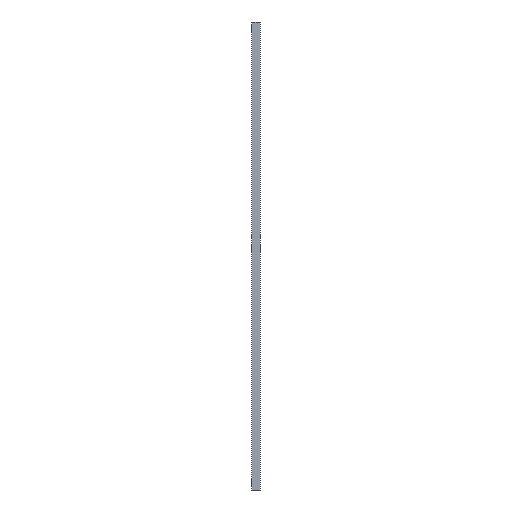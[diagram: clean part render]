
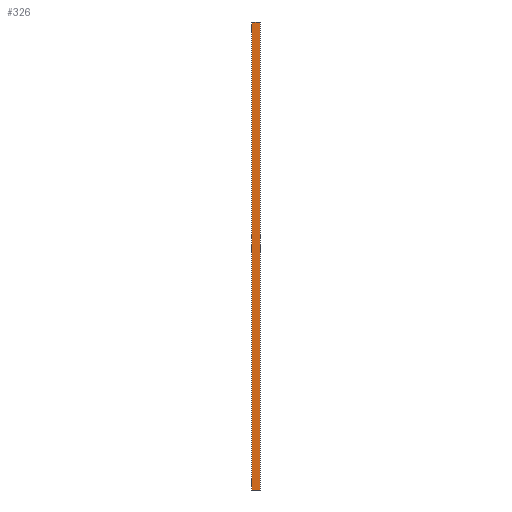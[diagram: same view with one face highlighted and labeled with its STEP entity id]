
A CAD part, left-side view. The second image highlights one B-rep face of the part: STEP entity #326.
In plain terms, the highlighted planar face has unit normal (-1, 0, 0).
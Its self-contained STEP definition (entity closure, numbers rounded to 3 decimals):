
#44 = DIRECTION ( 'NONE',  ( 0., 1., 0. ) ) ;
#45 = CARTESIAN_POINT ( 'NONE',  ( -8., 0., 679. ) ) ;
#100 = ORIENTED_EDGE ( 'NONE', *, *, #963, .F. ) ;
#114 = LINE ( 'NONE', #883, #366 ) ;
#116 = EDGE_CURVE ( 'NONE', #618, #989, #354, .T. ) ;
#128 = ORIENTED_EDGE ( 'NONE', *, *, #1035, .T. ) ;
#148 = ORIENTED_EDGE ( 'NONE', *, *, #116, .T. ) ;
#152 = CARTESIAN_POINT ( 'NONE',  ( -8., 12.5, 679. ) ) ;
#181 = DIRECTION ( 'NONE',  ( 0., 1., 0. ) ) ;
#186 = DIRECTION ( 'NONE',  ( 0., 1., 0. ) ) ;
#194 = CARTESIAN_POINT ( 'NONE',  ( -8., 0., 0. ) ) ;
#219 = LINE ( 'NONE', #194, #1168 ) ;
#232 = CARTESIAN_POINT ( 'NONE',  ( -8., 3.2, 0. ) ) ;
#242 = CARTESIAN_POINT ( 'NONE',  ( -8., 0., 0. ) ) ;
#282 = VECTOR ( 'NONE', #181, 1000. ) ;
#284 = CARTESIAN_POINT ( 'NONE',  ( -8., 0., 679. ) ) ;
#294 = VERTEX_POINT ( 'NONE', #564 ) ;
#296 = VECTOR ( 'NONE', #44, 1000. ) ;
#301 = LINE ( 'NONE', #397, #762 ) ;
#320 = AXIS2_PLACEMENT_3D ( 'NONE', #45, #390, #852 ) ;
#326 = ADVANCED_FACE ( 'NONE', ( #682 ), #1118, .T. ) ;
#350 = ORIENTED_EDGE ( 'NONE', *, *, #927, .F. ) ;
#354 = LINE ( 'NONE', #242, #622 ) ;
#364 = CARTESIAN_POINT ( 'NONE',  ( -8., 12.5, 679. ) ) ;
#366 = VECTOR ( 'NONE', #650, 1000. ) ;
#367 = DIRECTION ( 'NONE',  ( 0., -1., 0. ) ) ;
#388 = CARTESIAN_POINT ( 'NONE',  ( -8., 12.5, 0. ) ) ;
#390 = DIRECTION ( 'NONE',  ( -1., 0., 0. ) ) ;
#397 = CARTESIAN_POINT ( 'NONE',  ( -8., 0., 0. ) ) ;
#425 = ORIENTED_EDGE ( 'NONE', *, *, #1259, .F. ) ;
#448 = CARTESIAN_POINT ( 'NONE',  ( -8., 9.3, 679. ) ) ;
#455 = VECTOR ( 'NONE', #490, 1000. ) ;
#490 = DIRECTION ( 'NONE',  ( 0., -1., 0. ) ) ;
#495 = VECTOR ( 'NONE', #570, 1000. ) ;
#564 = CARTESIAN_POINT ( 'NONE',  ( -8., 0., 679. ) ) ;
#570 = DIRECTION ( 'NONE',  ( 0., 0., -1. ) ) ;
#583 = VERTEX_POINT ( 'NONE', #388 ) ;
#594 = CARTESIAN_POINT ( 'NONE',  ( -8., 0., 679. ) ) ;
#613 = EDGE_CURVE ( 'NONE', #712, #583, #805, .T. ) ;
#618 = VERTEX_POINT ( 'NONE', #232 ) ;
#622 = VECTOR ( 'NONE', #367, 1000. ) ;
#630 = EDGE_CURVE ( 'NONE', #1357, #294, #1049, .T. ) ;
#638 = ORIENTED_EDGE ( 'NONE', *, *, #1282, .T. ) ;
#650 = DIRECTION ( 'NONE',  ( 0., 0., -1. ) ) ;
#677 = CARTESIAN_POINT ( 'NONE',  ( -8., 3.2, 679. ) ) ;
#678 = ORIENTED_EDGE ( 'NONE', *, *, #630, .F. ) ;
#682 = FACE_OUTER_BOUND ( 'NONE', #1328, .T. ) ;
#712 = VERTEX_POINT ( 'NONE', #933 ) ;
#724 = LINE ( 'NONE', #594, #282 ) ;
#762 = VECTOR ( 'NONE', #1138, 1000. ) ;
#805 = LINE ( 'NONE', #364, #495 ) ;
#852 = DIRECTION ( 'NONE',  ( 0., 0., 1. ) ) ;
#883 = CARTESIAN_POINT ( 'NONE',  ( -8., 0., 679. ) ) ;
#901 = VERTEX_POINT ( 'NONE', #448 ) ;
#927 = EDGE_CURVE ( 'NONE', #1313, #583, #219, .T. ) ;
#933 = CARTESIAN_POINT ( 'NONE',  ( -8., 12.5, 679. ) ) ;
#963 = EDGE_CURVE ( 'NONE', #294, #989, #114, .T. ) ;
#989 = VERTEX_POINT ( 'NONE', #1277 ) ;
#1006 = ORIENTED_EDGE ( 'NONE', *, *, #613, .T. ) ;
#1035 = EDGE_CURVE ( 'NONE', #901, #712, #1209, .T. ) ;
#1049 = LINE ( 'NONE', #284, #455 ) ;
#1118 = PLANE ( 'NONE',  #320 ) ;
#1138 = DIRECTION ( 'NONE',  ( 0., 1., 0. ) ) ;
#1168 = VECTOR ( 'NONE', #186, 1000. ) ;
#1209 = LINE ( 'NONE', #152, #296 ) ;
#1259 = EDGE_CURVE ( 'NONE', #618, #1313, #301, .T. ) ;
#1277 = CARTESIAN_POINT ( 'NONE',  ( -8., 0., 0. ) ) ;
#1282 = EDGE_CURVE ( 'NONE', #1357, #901, #724, .T. ) ;
#1313 = VERTEX_POINT ( 'NONE', #1405 ) ;
#1328 = EDGE_LOOP ( 'NONE', ( #425, #148, #100, #678, #638, #128, #1006, #350 ) ) ;
#1357 = VERTEX_POINT ( 'NONE', #677 ) ;
#1405 = CARTESIAN_POINT ( 'NONE',  ( -8., 9.3, 0. ) ) ;
